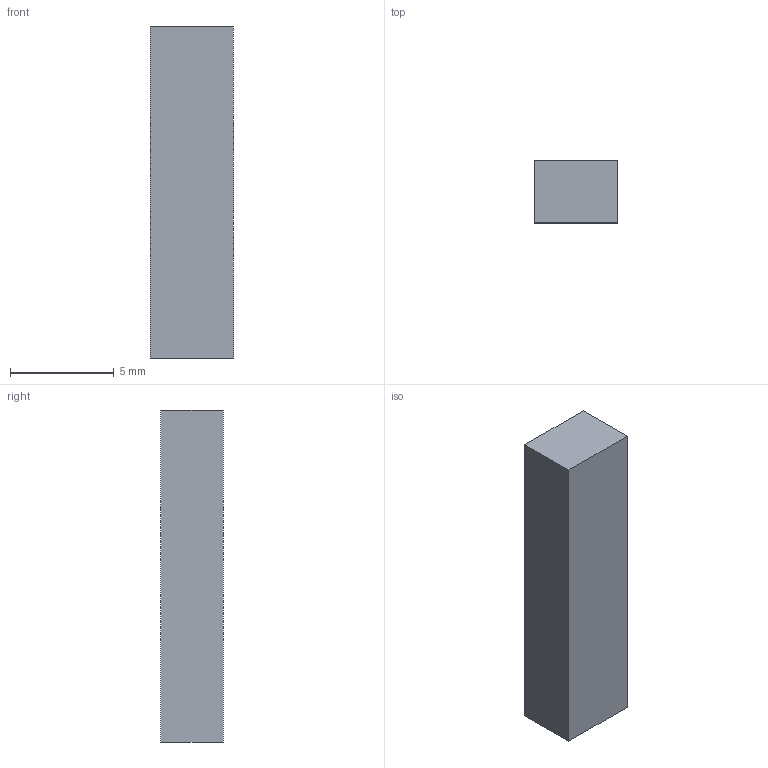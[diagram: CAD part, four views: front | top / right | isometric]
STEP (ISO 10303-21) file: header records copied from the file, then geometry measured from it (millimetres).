
FILE_DESCRIPTION(('Open CASCADE Model'),'2;1');
FILE_NAME('Open CASCADE Shape Model','2026-10-04T02:31:41',('Author'),( 'Open CASCADE'),'Open CASCADE STEP processor 8.0','Open CASCADE 8.0' ,'Unknown');
FILE_SCHEMA(('AUTOMOTIVE_DESIGN { 1 0 10303 214 1 1 1 1 }'));
Length unit declared in the file: millimetre
Products named in the file (1): Open CASCADE STEP translator 8.0 278
Bounding box: 4 x 3 x 16 mm (x, y, z)
Volume: 192 mm3; surface area: 248 mm2
Topology: 1 solids, 1 shells, 6 faces, 12 edges, 8 vertices
Faces by surface type: plane 6
Entity records: 322 total; most frequent: CARTESIAN_POINT 51, DIRECTION 50, LINE 36, VECTOR 36, ORIENTED_EDGE 24, PCURVE 24, DEFINITIONAL_REPRESENTATION 24, EDGE_CURVE 12
